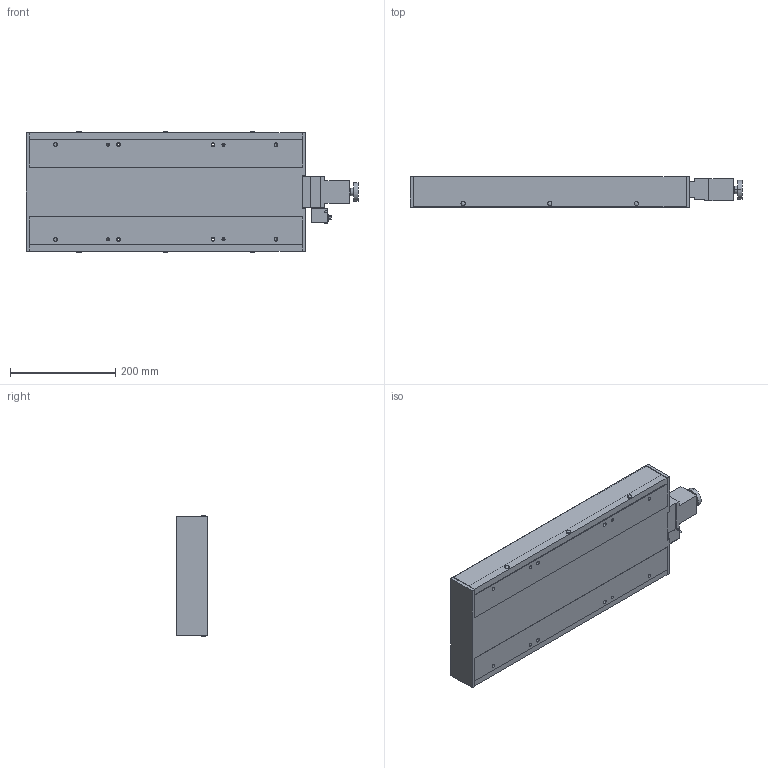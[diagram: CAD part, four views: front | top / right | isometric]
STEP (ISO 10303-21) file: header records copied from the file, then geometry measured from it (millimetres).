
FILE_DESCRIPTION (( 'STEP AP203' ), '1' );
FILE_NAME ('ALS-220-C5PB.STEP', '2008-03-07T08:22:43', ( '' ), ( '' ), 'SwSTEP 2.0', 'SolidWorks 2007', '' );
FILE_SCHEMA (( 'CONFIG_CONTROL_DESIGN' ));
Length unit declared in the file: millimetre
Products named in the file (5): ALS-220-C5PB-1_蹬怮椔; ALS-220-C5PB-4_蹬怮椔; ALS-220-C5PB; ALS-220-C5PB-2_蹬怮椔; ALS-220-C5PB-3_蹬怮椔
Assembly tree (4 placements, depth 2):
  ALS-220-C5PB
    ALS-220-C5PB-1_蹬怮椔
    ALS-220-C5PB-3_蹬怮椔
    ALS-220-C5PB-4_蹬怮椔
    ALS-220-C5PB-2_蹬怮椔
Bounding box: 632 x 60 x 230.8 mm (x, y, z)
Volume: 3547322.7 mm3; surface area: 924321.6 mm2
Topology: 4 solids, 7 shells, 701 faces, 1809 edges, 1196 vertices
Faces by surface type: plane 439, cylinder 235, cone 18, bspline 9
Entity records: 23840 total; most frequent: CARTESIAN_POINT 5570, DIRECTION 3695, ORIENTED_EDGE 3618, EDGE_CURVE 1809, VECTOR 1285, LINE 1285, AXIS2_PLACEMENT_3D 1205, VERTEX_POINT 1196
